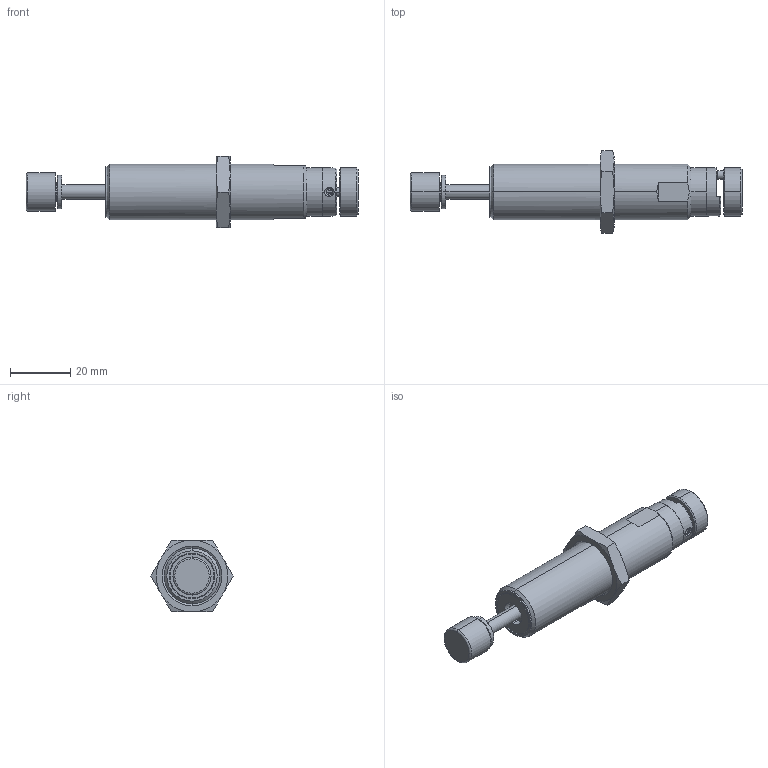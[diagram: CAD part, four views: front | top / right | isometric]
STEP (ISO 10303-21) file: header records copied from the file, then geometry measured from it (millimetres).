
FILE_DESCRIPTION (( 'STEP AP203' ), '1' );
FILE_NAME ('ECO OEM .5B.STEP', '2016-03-08T17:59:16', ( '' ), ( '' ), 'SwSTEP 2.0', 'SolidWorks 2011', '' );
FILE_SCHEMA (( 'CONFIG_CONTROL_DESIGN' ));
Length unit declared in the file: inch
Products named in the file (1): ECO OEM .5B
Bounding box: 110.59 x 27.48 x 23.8 mm (x, y, z)
Surface area: 8094.4 mm2 (no closed solid volume)
Topology: 0 solids, 12 shells, 109 faces, 280 edges, 184 vertices
Faces by surface type: plane 40, cone 37, cylinder 26, torus 6
Entity records: 3531 total; most frequent: CARTESIAN_POINT 792, DIRECTION 585, ORIENTED_EDGE 504, EDGE_CURVE 280, AXIS2_PLACEMENT_3D 233, VERTEX_POINT 184, CIRCLE 123, EDGE_LOOP 123
